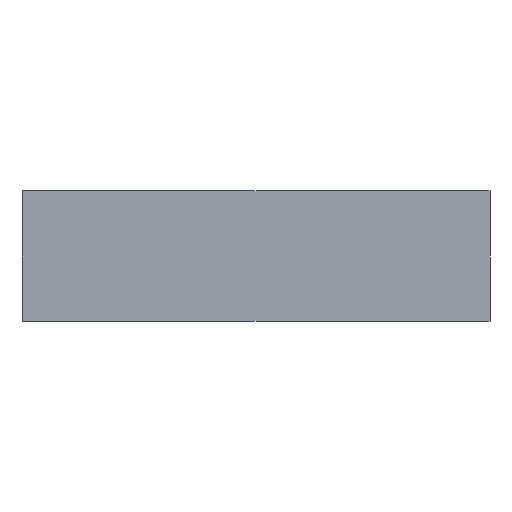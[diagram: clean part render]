
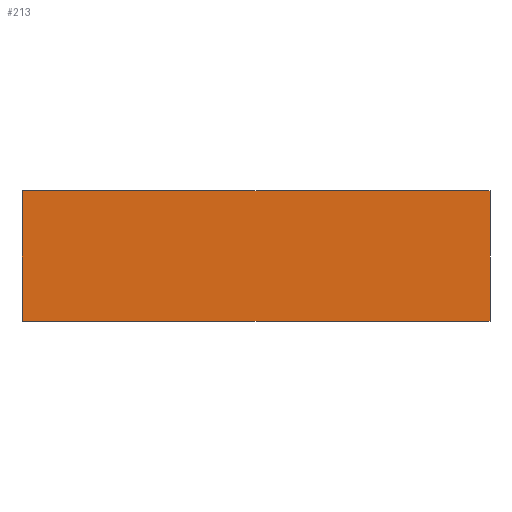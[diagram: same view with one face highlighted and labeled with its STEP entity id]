
A CAD part, top view. The second image highlights one B-rep face of the part: STEP entity #213.
In plain terms, the highlighted planar face has unit normal (0, 0, 1).
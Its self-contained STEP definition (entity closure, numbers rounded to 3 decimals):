
#44 = PLANE('',#45);
#45 = AXIS2_PLACEMENT_3D('',#46,#47,#48);
#46 = CARTESIAN_POINT('',(838.,235.077,13.));
#47 = DIRECTION('',(0.707,-0.,-0.707));
#48 = DIRECTION('',(-0.707,0.,-0.707));
#72 = PLANE('',#73);
#73 = AXIS2_PLACEMENT_3D('',#74,#75,#76);
#74 = CARTESIAN_POINT('',(0.,470.155,
    13.011));
#75 = DIRECTION('',(-0.,1.,-0.));
#76 = DIRECTION('',(0.,0.,-1.));
#100 = PLANE('',#101);
#101 = AXIS2_PLACEMENT_3D('',#102,#103,#104);
#102 = CARTESIAN_POINT('',(-838.,235.077,13.));
#103 = DIRECTION('',(-0.707,-0.,-0.707));
#104 = DIRECTION('',(0.707,0.,-0.707));
#126 = PLANE('',#127);
#127 = AXIS2_PLACEMENT_3D('',#128,#129,#130);
#128 = CARTESIAN_POINT('',(0.,0.,13.011));
#129 = DIRECTION('',(0.,-1.,-0.));
#130 = DIRECTION('',(0.,0.,1.));
#143 = VERTEX_POINT('',#144);
#144 = CARTESIAN_POINT('',(-841.,0.,16.));
#165 = EDGE_CURVE('',#166,#143,#168,.T.);
#166 = VERTEX_POINT('',#167);
#167 = CARTESIAN_POINT('',(841.,0.,16.));
#168 = SURFACE_CURVE('',#169,(#173,#180),.PCURVE_S1.);
#169 = LINE('',#170,#171);
#170 = CARTESIAN_POINT('',(841.,0.,16.));
#171 = VECTOR('',#172,1.);
#172 = DIRECTION('',(-1.,-0.,-0.));
#173 = PCURVE('',#126,#174);
#174 = DEFINITIONAL_REPRESENTATION('',(#175),#179);
#175 = LINE('',#176,#177);
#176 = CARTESIAN_POINT('',(2.989,-841.));
#177 = VECTOR('',#178,1.);
#178 = DIRECTION('',(-0.,1.));
#179 = ( GEOMETRIC_REPRESENTATION_CONTEXT(2) 
PARAMETRIC_REPRESENTATION_CONTEXT() REPRESENTATION_CONTEXT('2D SPACE',''
  ) );
#180 = PCURVE('',#181,#186);
#181 = PLANE('',#182);
#182 = AXIS2_PLACEMENT_3D('',#183,#184,#185);
#183 = CARTESIAN_POINT('',(0.,235.077,16.));
#184 = DIRECTION('',(-0.,-0.,1.));
#185 = DIRECTION('',(1.,0.,0.));
#186 = DEFINITIONAL_REPRESENTATION('',(#187),#191);
#187 = LINE('',#188,#189);
#188 = CARTESIAN_POINT('',(841.,-235.077));
#189 = VECTOR('',#190,1.);
#190 = DIRECTION('',(-1.,0.));
#191 = ( GEOMETRIC_REPRESENTATION_CONTEXT(2) 
PARAMETRIC_REPRESENTATION_CONTEXT() REPRESENTATION_CONTEXT('2D SPACE',''
  ) );
#213 = ADVANCED_FACE('',(#214),#181,.T.);
#214 = FACE_BOUND('',#215,.F.);
#215 = EDGE_LOOP('',(#216,#217,#240,#263));
#216 = ORIENTED_EDGE('',*,*,#165,.T.);
#217 = ORIENTED_EDGE('',*,*,#218,.T.);
#218 = EDGE_CURVE('',#143,#219,#221,.T.);
#219 = VERTEX_POINT('',#220);
#220 = CARTESIAN_POINT('',(-841.,470.155,16.));
#221 = SURFACE_CURVE('',#222,(#226,#233),.PCURVE_S1.);
#222 = LINE('',#223,#224);
#223 = CARTESIAN_POINT('',(-841.,0.,16.));
#224 = VECTOR('',#225,1.);
#225 = DIRECTION('',(-0.,1.,-0.));
#226 = PCURVE('',#181,#227);
#227 = DEFINITIONAL_REPRESENTATION('',(#228),#232);
#228 = LINE('',#229,#230);
#229 = CARTESIAN_POINT('',(-841.,-235.077));
#230 = VECTOR('',#231,1.);
#231 = DIRECTION('',(-0.,1.));
#232 = ( GEOMETRIC_REPRESENTATION_CONTEXT(2) 
PARAMETRIC_REPRESENTATION_CONTEXT() REPRESENTATION_CONTEXT('2D SPACE',''
  ) );
#233 = PCURVE('',#100,#234);
#234 = DEFINITIONAL_REPRESENTATION('',(#235),#239);
#235 = LINE('',#236,#237);
#236 = CARTESIAN_POINT('',(-4.243,235.077));
#237 = VECTOR('',#238,1.);
#238 = DIRECTION('',(-0.,-1.));
#239 = ( GEOMETRIC_REPRESENTATION_CONTEXT(2) 
PARAMETRIC_REPRESENTATION_CONTEXT() REPRESENTATION_CONTEXT('2D SPACE',''
  ) );
#240 = ORIENTED_EDGE('',*,*,#241,.T.);
#241 = EDGE_CURVE('',#219,#242,#244,.T.);
#242 = VERTEX_POINT('',#243);
#243 = CARTESIAN_POINT('',(841.,470.155,16.));
#244 = SURFACE_CURVE('',#245,(#249,#256),.PCURVE_S1.);
#245 = LINE('',#246,#247);
#246 = CARTESIAN_POINT('',(-841.,470.155,16.));
#247 = VECTOR('',#248,1.);
#248 = DIRECTION('',(1.,-0.,-0.));
#249 = PCURVE('',#181,#250);
#250 = DEFINITIONAL_REPRESENTATION('',(#251),#255);
#251 = LINE('',#252,#253);
#252 = CARTESIAN_POINT('',(-841.,235.077));
#253 = VECTOR('',#254,1.);
#254 = DIRECTION('',(1.,-0.));
#255 = ( GEOMETRIC_REPRESENTATION_CONTEXT(2) 
PARAMETRIC_REPRESENTATION_CONTEXT() REPRESENTATION_CONTEXT('2D SPACE',''
  ) );
#256 = PCURVE('',#72,#257);
#257 = DEFINITIONAL_REPRESENTATION('',(#258),#262);
#258 = LINE('',#259,#260);
#259 = CARTESIAN_POINT('',(-2.989,841.));
#260 = VECTOR('',#261,1.);
#261 = DIRECTION('',(-0.,-1.));
#262 = ( GEOMETRIC_REPRESENTATION_CONTEXT(2) 
PARAMETRIC_REPRESENTATION_CONTEXT() REPRESENTATION_CONTEXT('2D SPACE',''
  ) );
#263 = ORIENTED_EDGE('',*,*,#264,.T.);
#264 = EDGE_CURVE('',#242,#166,#265,.T.);
#265 = SURFACE_CURVE('',#266,(#270,#277),.PCURVE_S1.);
#266 = LINE('',#267,#268);
#267 = CARTESIAN_POINT('',(841.,470.155,16.));
#268 = VECTOR('',#269,1.);
#269 = DIRECTION('',(-0.,-1.,-0.));
#270 = PCURVE('',#181,#271);
#271 = DEFINITIONAL_REPRESENTATION('',(#272),#276);
#272 = LINE('',#273,#274);
#273 = CARTESIAN_POINT('',(841.,235.077));
#274 = VECTOR('',#275,1.);
#275 = DIRECTION('',(-0.,-1.));
#276 = ( GEOMETRIC_REPRESENTATION_CONTEXT(2) 
PARAMETRIC_REPRESENTATION_CONTEXT() REPRESENTATION_CONTEXT('2D SPACE',''
  ) );
#277 = PCURVE('',#44,#278);
#278 = DEFINITIONAL_REPRESENTATION('',(#279),#283);
#279 = LINE('',#280,#281);
#280 = CARTESIAN_POINT('',(-4.243,235.077));
#281 = VECTOR('',#282,1.);
#282 = DIRECTION('',(-0.,-1.));
#283 = ( GEOMETRIC_REPRESENTATION_CONTEXT(2) 
PARAMETRIC_REPRESENTATION_CONTEXT() REPRESENTATION_CONTEXT('2D SPACE',''
  ) );
